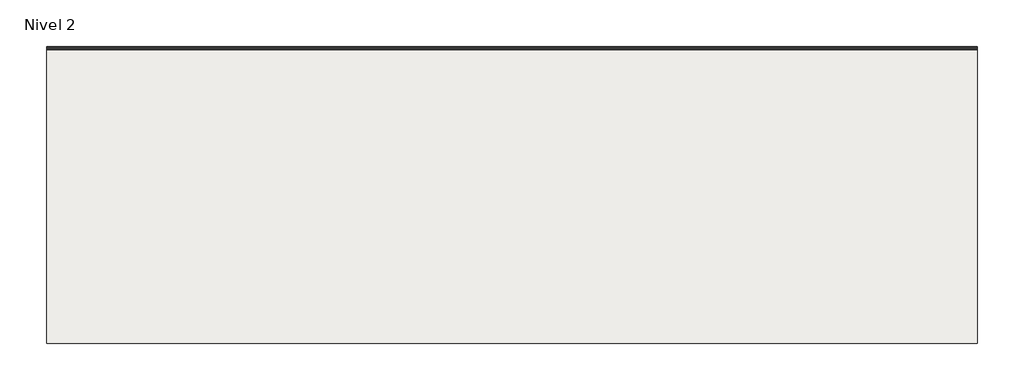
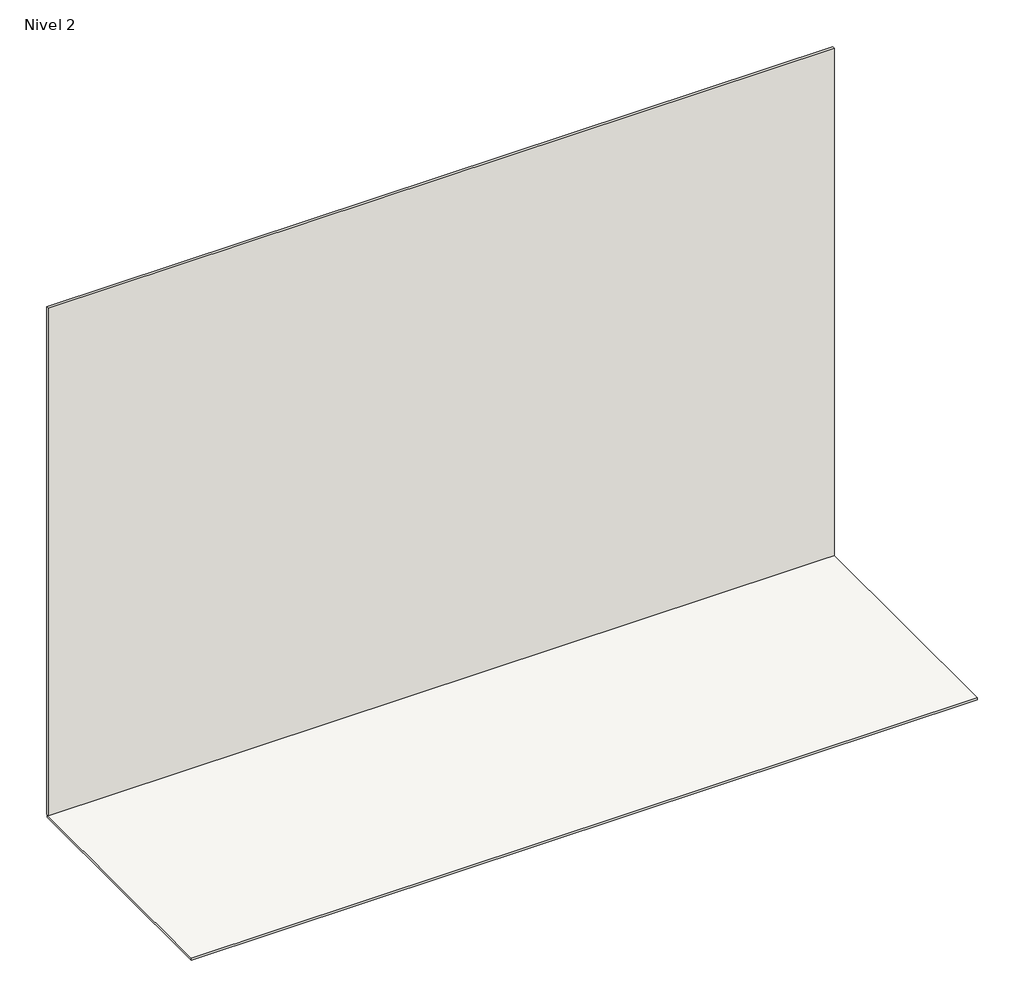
# One storey, incomplete: 1 slab, 1 wall.
"""IFC4 building model written with IfcOpenShell, lengths in millimetres."""

from ifc_helpers import new_model, si_unit, frame, origin, place, context, project, spatial, polyline, outline, extrude, element, save

model = new_model("IFC4")

# Units and contexts
model_context = context("Model", 3, world=origin())
ifc_project = project(units=[si_unit("LENGTHUNIT", "METRE", prefix="MILLI")], contexts=[model_context])

# Site, building, storey
site = spatial("IfcSite", under=ifc_project)
building = spatial("IfcBuilding", under=site)
storey = spatial("IfcBuildingStorey", under=building, Name="Nivel 2", Elevation=4000.0)

# Slab
placement = place(None, origin())
element("IfcSlab", 1, ObjectType="Genérico 150 mm", at=placement, inside=storey, context=model_context, shape_type="SweptSolid", body=[
    extrude(outline(polyline([(32479.5577631, 8548.4136988), (32479.5577631, -10051.5863012), (-26120.4422369, -10051.5863012), (-26120.4422369, 8548.4136988), (32479.5577631, 8548.4136988)])), frame((0.0, 0.0, 3850.0), z_axis=(0.0, 0.0, 1.0), x_axis=(1.0, 0.0, 0.0)), (0.0, 0.0, 1.0), 150.0),
])

# Wall
element("IfcWall", 2, ObjectType="Genérico - 200 mm", at=placement, inside=storey, context=model_context, shape_type="SweptSolid", body=[
    extrude(outline(polyline([(-26120.4422369, 8648.4136988), (32479.5577631, 8648.4136988), (32479.5577631, 8448.4136988), (-26120.4422369, 8448.4136988), (-26120.4422369, 8648.4136988)])), frame((0.0, 0.0, 4000.0), z_axis=(0.0, 0.0, 1.0), x_axis=(1.0, 0.0, 0.0)), (0.0, 0.0, 1.0), 40000.0),
])

save(model, "model.ifc")
